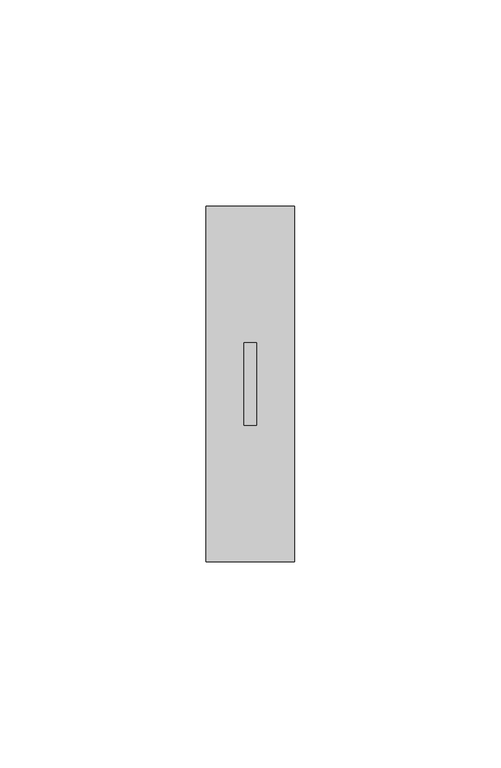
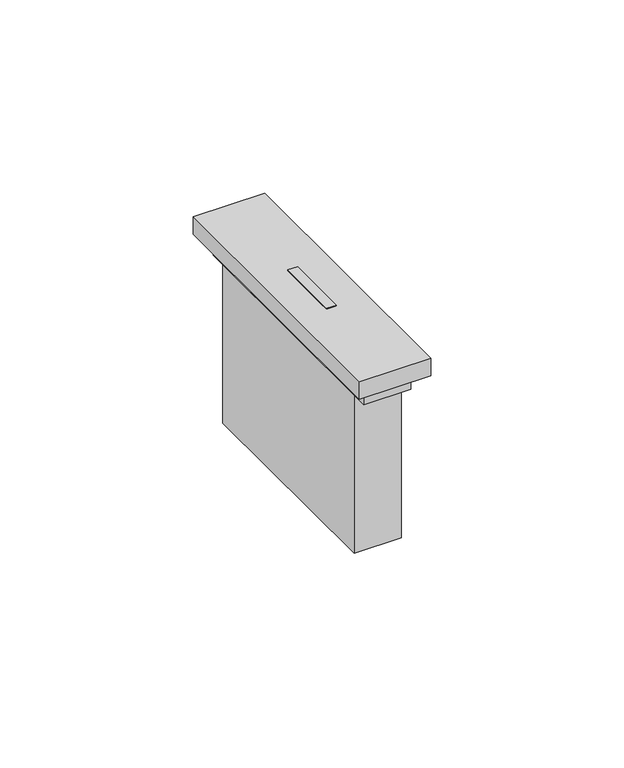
"""IFC4 building model written with IfcOpenShell, lengths in millimetres: proxy geometry, BT_LN_ComandoFuoricamera_Commutatore : Comandi Fuoricamera Commutatore - Art. K4027H - 1M - Cover Bianco."""

from ifc_helpers import new_model, si_unit, frame, origin, origin_with_axes, place, context, project, spatial, polyline, outline, extrude, source, transform, mapped, element, save


def communication_devices_daa9677e(model_context):
    return source(origin(), model_context, "Body", "SweptSolid", [
        extrude(outline(polyline([(-7.0, 39.0), (7.0, 39.0), (7.0, -39.0), (-7.0, -39.0), (-7.0, 39.0)])), frame((0.0, 0.0, 50.0), z_axis=(0.0, 0.0, 1.0), x_axis=(1.0, 0.0, 0.0)), (0.0, 0.0, 1.0), 5.5),
        extrude(outline(polyline([(-7.0, 34.0), (7.0, 34.0), (7.0, -34.0), (-7.0, -34.0), (-7.0, 34.0)])), origin_with_axes(), (0.0, 0.0, 1.0), 50.0),
        extrude(outline(polyline([(-1.5, 10.0), (1.5, 10.0), (1.5, -10.0), (-1.5, -10.0), (-1.5, 10.0)])), frame((0.0, 0.0, 55.5), z_axis=(0.0, 0.0, 1.0), x_axis=(1.0, 0.0, 0.0)), (0.0, 0.0, 1.0), 5.5),
        extrude(outline(polyline([(-10.7, -43.0), (-10.7, 43.0), (10.7, 43.0), (10.7, -43.0), (-10.7, -43.0)]), holes=[polyline([(-1.5, 10.0), (-1.5, -10.0), (1.5, -10.0), (1.5, 10.0), (-1.5, 10.0)])]), frame((0.0, 0.0, 55.5), z_axis=(0.0, 0.0, 1.0), x_axis=(1.0, 0.0, 0.0)), (0.0, 0.0, 1.0), 5.5),
    ])


if __name__ == "__main__":
    model = new_model("IFC4")
    model_context = context("Model", 3, world=origin())
    ifc_project = project(units=[si_unit("LENGTHUNIT", "METRE", prefix="MILLI")], contexts=[model_context])
    site = spatial("IfcSite", under=ifc_project)
    building = spatial("IfcBuilding", under=site)
    placement = place(None, origin())
    communication_devices_shape = communication_devices_daa9677e(model_context)
    element("IfcBuildingElementProxy", 1, Name="BT_LN_ComandoFuoricamera_Commutatore : Comandi Fuoricamera Commutatore - Art. K4027H - 1M - Cover Bianco", ObjectType="BT_LN_ComandoFuoricamera_Commutatore : Comandi Fuoricamera Commutatore - Art. K4027H - 1M - Cover Bianco", at=placement, inside=building, context=model_context, shape_type="MappedRepresentation", body=[
        mapped(communication_devices_shape, transform((0.0, 0.0, 0.0), x_axis=(1.0, 0.0, 0.0), y_axis=(0.0, 1.0, 0.0), z_axis=(0.0, 0.0, 1.0))),
    ])
    save(model, "model.ifc")
